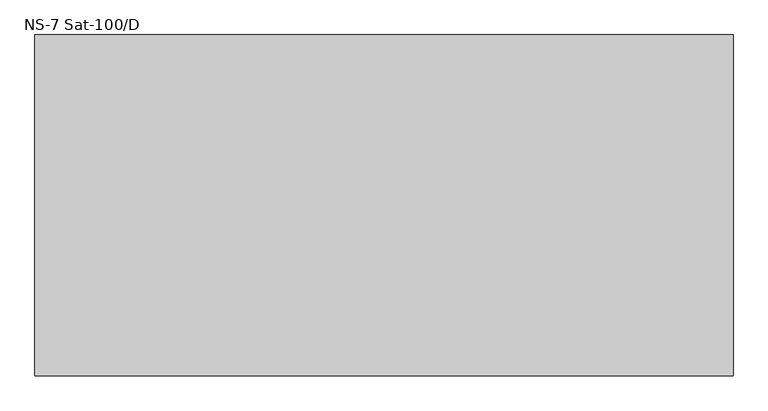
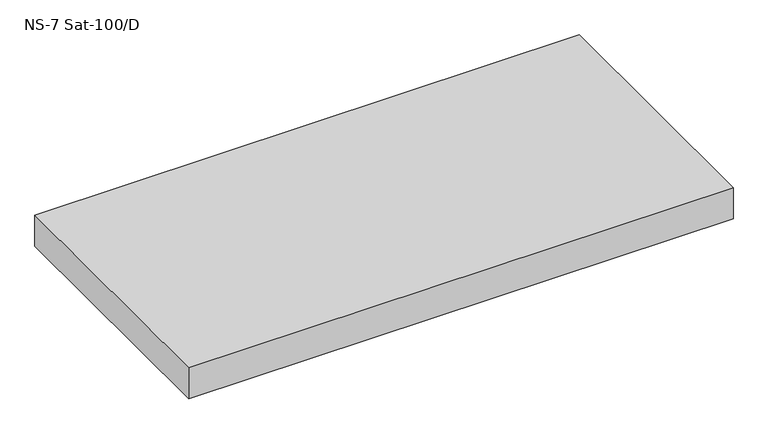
"""IFC4 building model written with IfcOpenShell, lengths in millimetres: unitary equipment geometry, ME_PE_UN_Lipulift-PFD_ACO : NS-7 Sat-100/D."""

from ifc_helpers import new_model, si_unit, frame, origin, place, context, project, spatial, polyline, outline, extrude, source, transform, mapped, element, save


def ns_7_sat_100_d_25de03cb(model_context):
    return source(origin(), model_context, "Body", "SweptSolid", [
        extrude(outline(polyline([(2075.0, 1015.0572705), (2075.0, -1015.0572705), (-2075.0, -1015.0572705), (-2075.0, 1015.0572705), (2075.0, 1015.0572705)])), frame((0.0, 0.0, -330.0), z_axis=(0.0, 0.0, 1.0), x_axis=(1.0, 0.0, 0.0)), (0.0, 0.0, 1.0), 250.0),
    ])


if __name__ == "__main__":
    model = new_model("IFC4")
    model_context = context("Model", 3, world=origin())
    ifc_project = project(units=[si_unit("LENGTHUNIT", "METRE", prefix="MILLI")], contexts=[model_context])
    site = spatial("IfcSite", under=ifc_project)
    building = spatial("IfcBuilding", under=site)
    placement = place(None, origin())
    ns_7_sat_100_d_shape = ns_7_sat_100_d_25de03cb(model_context)
    element("IfcUnitaryEquipment", 1, ObjectType="ME_PE_UN_Lipulift-PFD_ACO : NS-7 Sat-100/D", at=placement, inside=building, context=model_context, shape_type="MappedRepresentation", body=[
        mapped(ns_7_sat_100_d_shape, transform((0.0, 0.0, 0.0), x_axis=(1.0, 0.0, 0.0), y_axis=(0.0, 1.0, 0.0), z_axis=(0.0, 0.0, 1.0))),
    ])
    save(model, "model.ifc")
